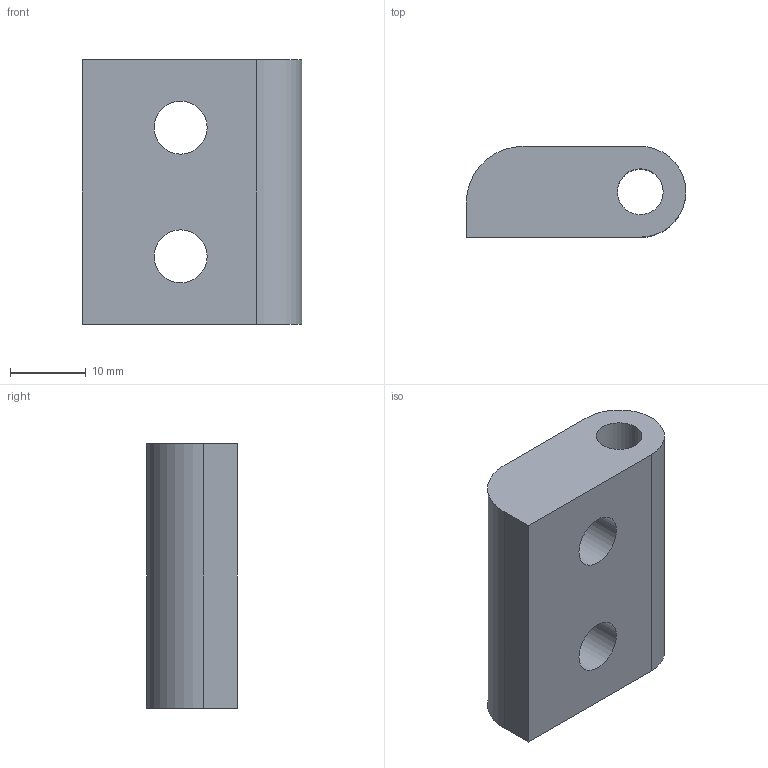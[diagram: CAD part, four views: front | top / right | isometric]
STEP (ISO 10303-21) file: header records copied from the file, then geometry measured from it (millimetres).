
FILE_DESCRIPTION (( 'STEP AP214' ), '1' );
FILE_NAME ('SN01001.step', '2024-12-03T16:31:20', ( '' ), ( '' ), 'SwSTEP 2.0', 'SolidWorks 2023', '' );
FILE_SCHEMA (( 'AUTOMOTIVE_DESIGN' ));
Length unit declared in the file: millimetre
Products named in the file (1): SN01001
Bounding box: 29 x 12 x 35 mm (x, y, z)
Volume: 8608.3 mm3; surface area: 4350.4 mm2
Topology: 1 solids, 1 shells, 14 faces, 34 edges, 22 vertices
Faces by surface type: plane 7, cylinder 7
Full cylindrical faces by diameter (mm): 6.05 x1, 7 x2, 11 x2
Entity records: 408 total; most frequent: DIRECTION 71, CARTESIAN_POINT 62, ORIENTED_EDGE 54, AXIS2_PLACEMENT_3D 29, EDGE_CURVE 27, EDGE_LOOP 25, VERTEX_POINT 20, FACE_OUTER_BOUND 19
